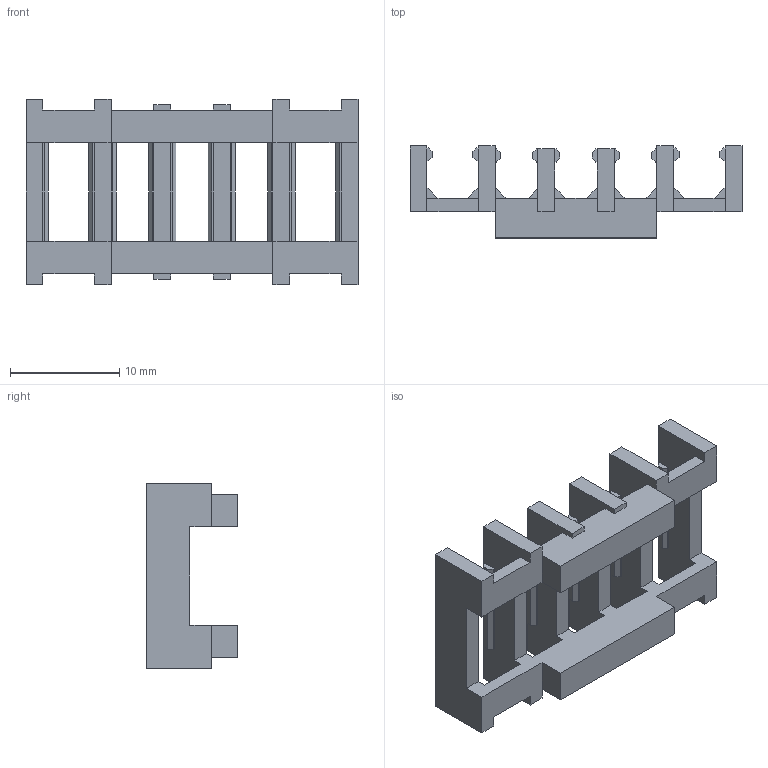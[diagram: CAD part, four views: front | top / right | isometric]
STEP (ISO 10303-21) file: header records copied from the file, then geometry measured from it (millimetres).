
FILE_DESCRIPTION(('CATIA V5 STEP Exchange'),'2;1');
FILE_NAME('C:\Users\Administrator\Desktop\孙工\五管夹.stp','2021-05-28T09:27:18+00:00',('none'),('none'),'CATIA Version 5 Release 20 GA (IN-10)','CATIA V5 STEP AP214','none');
FILE_SCHEMA(('AUTOMOTIVE_DESIGN { 1 0 10303 214 1 1 1 1 }'));
Length unit declared in the file: millimetre
Products named in the file (1): 5 guan jia 
Bounding box: 30.4 x 8.4 x 17 mm (x, y, z)
Volume: 1160.7 mm3; surface area: 1950.6 mm2
Topology: 1 solids, 1 shells, 194 faces, 592 edges, 397 vertices
Faces by surface type: plane 194
Entity records: 5935 total; most frequent: ORIENTED_EDGE 1184, CARTESIAN_POINT 1063, DIRECTION 738, VECTOR 592, EDGE_CURVE 592, LINE 592, VERTEX_POINT 396, EDGE_LOOP 200
